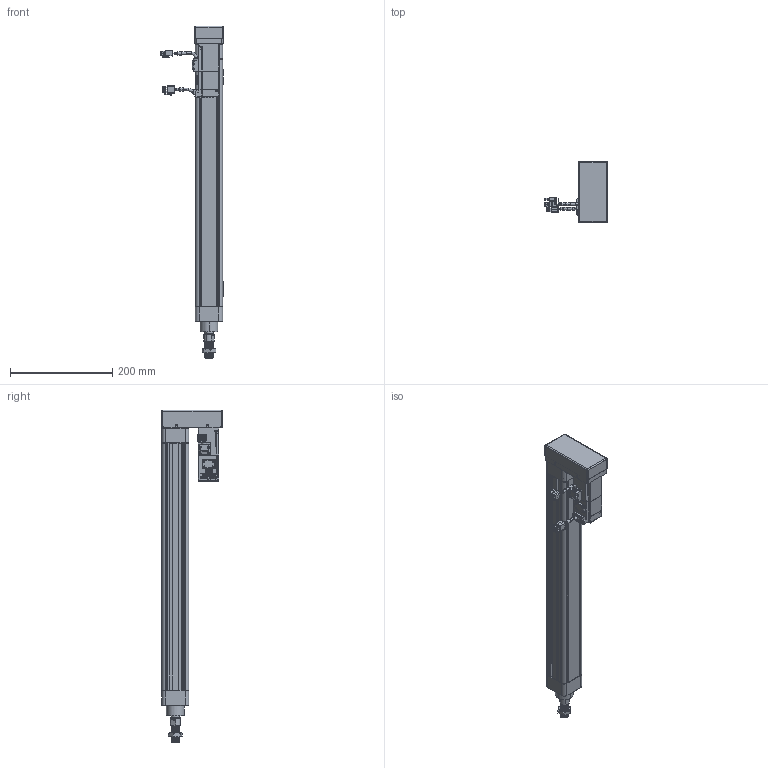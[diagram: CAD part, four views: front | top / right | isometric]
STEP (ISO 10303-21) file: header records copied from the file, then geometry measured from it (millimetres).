
FILE_DESCRIPTION (( 'STEP AP203' ), '1' );
FILE_NAME ('VEC50-10-C-400-MF-ZP10B-MS2.STEP', '2019-01-26T02:51:44', ( 'vobosh 6' ), ( 'Microsoft' ), 'SwSTEP 2.0', 'SolidWorks 2016', '' );
FILE_SCHEMA (( 'CONFIG_CONTROL_DESIGN' ));
Length unit declared in the file: millimetre
Products named in the file (12): 柈ч肣薦え耳9x耳8.5x4.4; VEC50-MF-200-011-X1; CS1-M; 鞠褒蹟譫M16x1.5; VEC50-MF-200-004-X1; VEC50-MF-200-001-X1; MHMF012L1V2; VEC50-MF-200-002-X1; VEC50-MF-200-005-X1; VEC50-MF-200-003-X1; VEC50-10-C-400-MF-ZP10B-MS2; 带尾螺母M6x9x45（镀镍）
Assembly tree (20 placements, depth 2):
  VEC50-10-C-400-MF-ZP10B-MS2
    VEC50-MF-200-001-X1
    VEC50-MF-200-002-X1
    VEC50-MF-200-003-X1
    带尾螺母M6x9x45（镀镍）  x8
    柈ч肣薦え耳9x耳8.5x4.4  x2
    VEC50-MF-200-011-X1
    CS1-M  x2
    鞠褒蹟譫M16x1.5
    VEC50-MF-200-004-X1
    MHMF012L1V2
    VEC50-MF-200-005-X1
Bounding box: 122.5 x 118 x 649 mm (x, y, z)
Volume: 1014116.3 mm3; surface area: 366526.7 mm2
Topology: 27 solids, 27 shells, 1970 faces, 4861 edges, 3048 vertices
Faces by surface type: plane 902, cylinder 703, cone 239, bspline 117, torus 9
Entity records: 59744 total; most frequent: CARTESIAN_POINT 16772, DIRECTION 8631, ORIENTED_EDGE 8630, EDGE_CURVE 4315, AXIS2_PLACEMENT_3D 2988, VERTEX_POINT 2755, LINE 2655, VECTOR 2655
